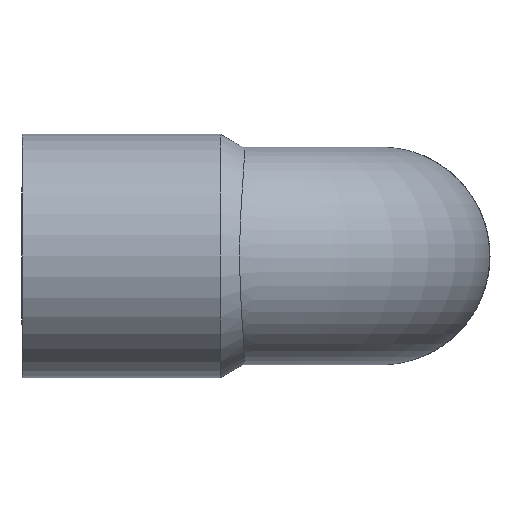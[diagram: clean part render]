
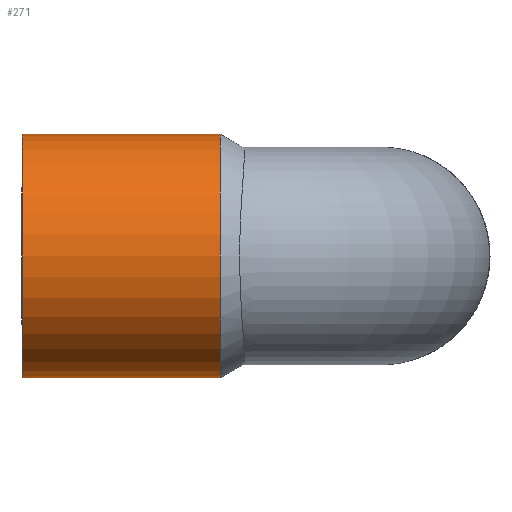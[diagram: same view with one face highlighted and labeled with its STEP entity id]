
A CAD part, front view. The second image highlights one B-rep face of the part: STEP entity #271.
In plain terms, the highlighted cylindrical face has radius 5.6 mm (diameter 11.2 mm), a full revolution.
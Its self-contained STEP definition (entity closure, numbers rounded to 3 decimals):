
#28=LINE('',#886,#36);
#36=VECTOR('',#400,5.6);
#40=CYLINDRICAL_SURFACE('',#326,5.6);
#63=FACE_OUTER_BOUND('',#81,.T.);
#81=EDGE_LOOP('',(#251,#252,#253,#254));
#97=CIRCLE('',#322,5.6);
#98=CIRCLE('',#324,5.6);
#136=VERTEX_POINT('',#877);
#137=VERTEX_POINT('',#880);
#172=EDGE_CURVE('',#136,#136,#97,.T.);
#173=EDGE_CURVE('',#137,#137,#98,.T.);
#176=EDGE_CURVE('',#136,#137,#28,.T.);
#251=ORIENTED_EDGE('',*,*,#172,.F.);
#252=ORIENTED_EDGE('',*,*,#176,.T.);
#253=ORIENTED_EDGE('',*,*,#173,.T.);
#254=ORIENTED_EDGE('',*,*,#176,.F.);
#271=ADVANCED_FACE('',(#63),#40,.T.);
#322=AXIS2_PLACEMENT_3D('',#878,#388,#389);
#324=AXIS2_PLACEMENT_3D('',#881,#392,#393);
#326=AXIS2_PLACEMENT_3D('',#885,#398,#399);
#388=DIRECTION('center_axis',(-1.,0.,0.));
#389=DIRECTION('ref_axis',(0.,-1.,0.));
#392=DIRECTION('center_axis',(-1.,0.,0.));
#393=DIRECTION('ref_axis',(0.,-1.,0.));
#398=DIRECTION('center_axis',(-1.,0.,0.));
#399=DIRECTION('ref_axis',(0.,-1.,0.));
#400=DIRECTION('',(1.,0.,0.));
#877=CARTESIAN_POINT('',(-6.5,-3.9,0.));
#878=CARTESIAN_POINT('Origin',(-6.5,-9.5,0.));
#880=CARTESIAN_POINT('',(2.611,-3.9,0.));
#881=CARTESIAN_POINT('Origin',(2.611,-9.5,0.));
#885=CARTESIAN_POINT('Origin',(-1.945,-9.5,0.));
#886=CARTESIAN_POINT('',(-1.945,-3.9,0.));
